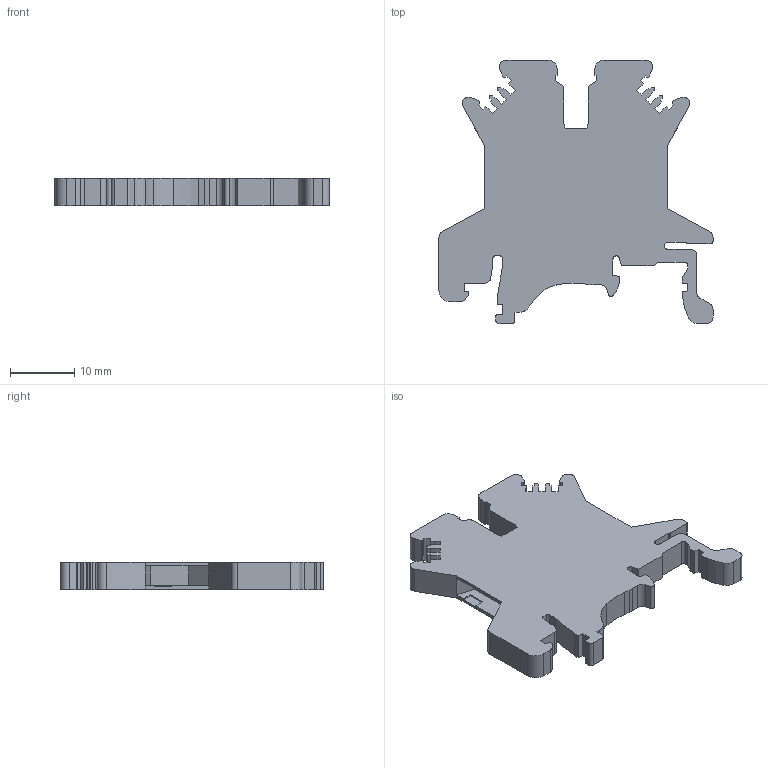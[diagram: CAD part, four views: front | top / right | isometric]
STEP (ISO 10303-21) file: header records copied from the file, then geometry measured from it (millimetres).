
FILE_DESCRIPTION((''),'2;1');
FILE_NAME('PC1_5-01P-11-00A_H_','2020-06-01T',('Administrator'),(''),'PRO/ENGINEER BY PARAMETRIC TECHNOLOGY CORPORATION, 2012360','PRO/ENGINEER BY PARAMETRIC TECHNOLOGY CORPORATION, 2012360','');
FILE_SCHEMA(('CONFIG_CONTROL_DESIGN'));
Length unit declared in the file: millimetre
Products named in the file (1): PC1_5-01P-11-00A_H_
Bounding box: 42.5 x 40.8 x 4.2 mm (x, y, z)
Volume: 4244.9 mm3; surface area: 3392.3 mm2
Topology: 1 solids, 1 shells, 226 faces, 670 edges, 448 vertices
Faces by surface type: plane 160, cylinder 66
Entity records: 7600 total; most frequent: CARTESIAN_POINT 1372, ORIENTED_EDGE 1340, DIRECTION 1256, EDGE_CURVE 670, VECTOR 524, LINE 524, VERTEX_POINT 448, AXIS2_PLACEMENT_3D 366
